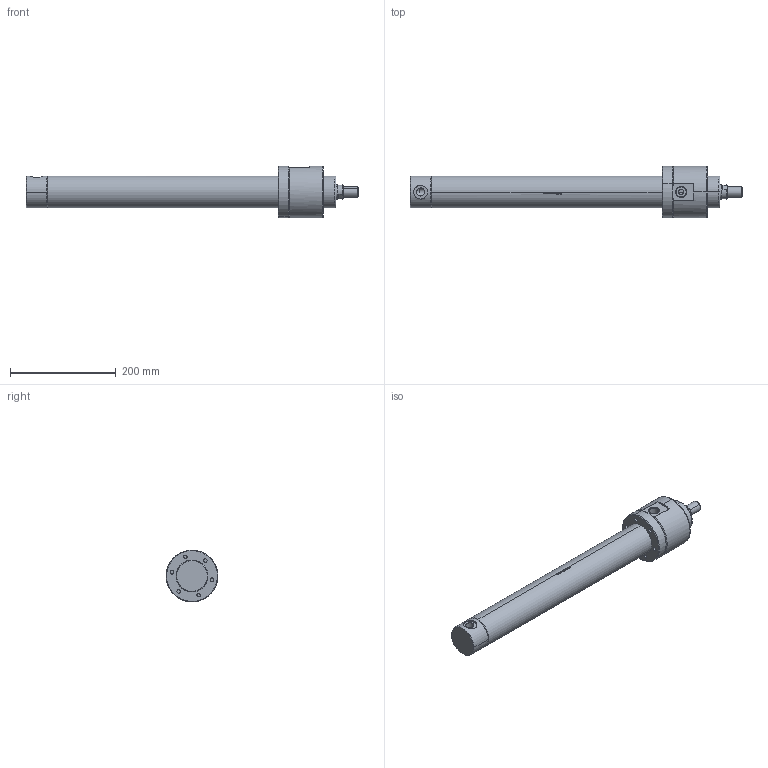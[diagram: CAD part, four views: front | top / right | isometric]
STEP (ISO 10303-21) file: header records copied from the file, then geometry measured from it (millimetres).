
FILE_DESCRIPTION (( 'STEP AP214' ), '1' );
FILE_NAME ('KHCC_50_28_400_WEB.STEP', '2020-12-15T11:42:46', ( '' ), ( '' ), 'SwSTEP 2.0', 'SolidWorks 2021', '' );
FILE_SCHEMA (( 'AUTOMOTIVE_DESIGN' ));
Length unit declared in the file: millimetre
Products named in the file (9): 50_28_烰_KAPAK; 50_28_gerdirme_flans; TYAK_50_60; 50_H.BORU_WEB; 28_K_MIL_WEB; K32-28X38X6; KHCC_50_28_400_WEB; K06-28X38_2X5_3X7
Assembly tree (8 placements, depth 3):
  KHCC_50_28_400_WEB
    50_28_烰_KAPAK
      50_28_烰_KAPAK
      K06-28X38_2X5_3X7
      K32-28X38X6
      50_28_gerdirme_flans
    50_H.BORU_WEB
    28_K_MIL_WEB
    TYAK_50_60
Bounding box: 628 x 98 x 98 mm (x, y, z)
Volume: 1091953.3 mm3; surface area: 274883.1 mm2
Topology: 7 solids, 7 shells, 468 faces, 1110 edges, 690 vertices
Faces by surface type: bspline 165, plane 120, cylinder 113, cone 66, torus 4
Entity records: 20644 total; most frequent: CARTESIAN_POINT 8588, ORIENTED_EDGE 2220, DIRECTION 1674, EDGE_CURVE 1110, VERTEX_POINT 690, AXIS2_PLACEMENT_3D 621, EDGE_LOOP 540, ADVANCED_FACE 468
